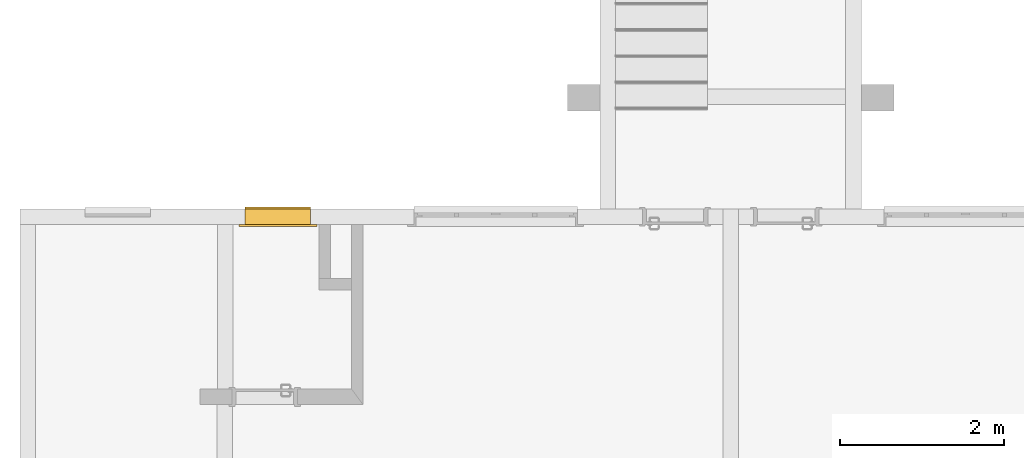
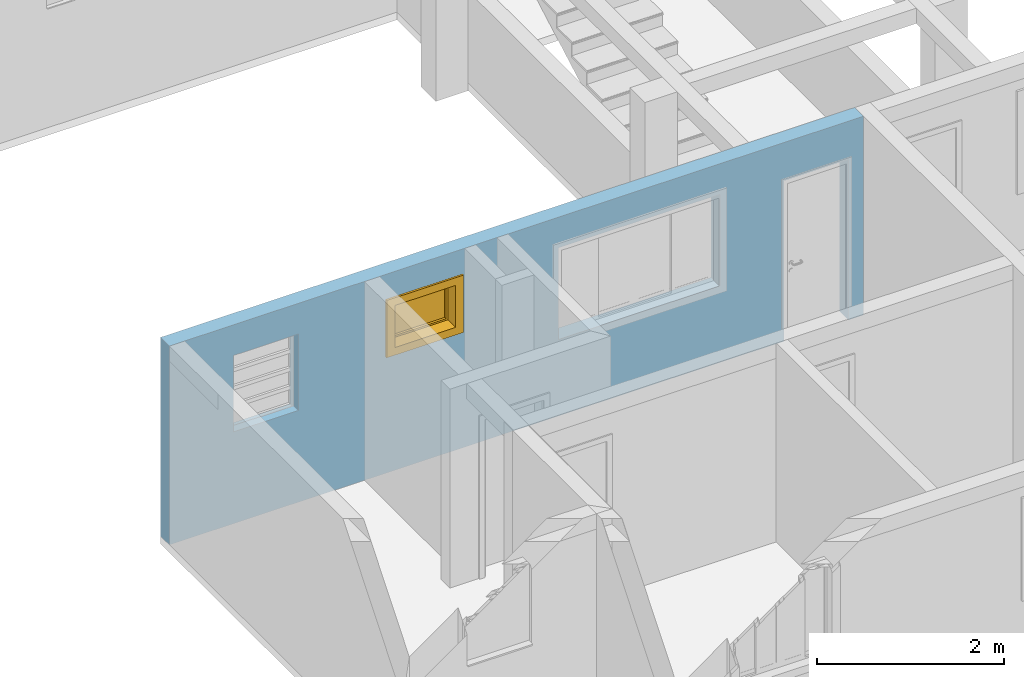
# One storey, part 10 of 43: 1 window, 4 openings, plus 1 element that does not belong to this part.
"""IFC2X3 building model written with IfcOpenShell, lengths in millimetres."""

import ifcopenshell
import ifcopenshell.guid

model = None  # the IFC model being written
_history = None  # IfcOwnerHistory: only IFC2X3 demands one
_inside = {}  # id of a spatial element -> (the spatial element, [elements in it])
_under = {}  # id of a project, library or spatial element -> (it, [spatial elements below it])
_declared = {}  # id of a project -> (the project, [libraries it declares])
_typed = {}  # id of a type object -> (the type object, [elements of that type])
_made_of = {}  # id of a material, layer set ... -> (it, [elements and type objects made of it])


def new_model(schema):
    """Start an empty IFC model of exactly this schema.

    Asked for "IFC4X3", IfcOpenShell would pick the latest addendum, in which some entities
    have other attributes; the version numbers below select the first issue.
    IFC2X3 requires an IfcOwnerHistory on every rooted entity: one is made here for all.
    """
    global model, _history
    if schema == "IFC4X3":
        model = ifcopenshell.file(schema_version=(4, 3, 0, 0))
    else:
        model = ifcopenshell.file(schema=schema)
    _inside.clear()
    _under.clear()
    _declared.clear()
    _typed.clear()
    _made_of.clear()
    _history = None
    if model.schema == "IFC2X3":
        org = make("IfcOrganization", Name="unknown")
        user = make(
            "IfcPersonAndOrganization",
            ThePerson=make("IfcPerson", FamilyName="unknown"),
            TheOrganization=org,
        )
        app = make(
            "IfcApplication",
            ApplicationDeveloper=org,
            Version="unknown",
            ApplicationFullName="unknown",
            ApplicationIdentifier="unknown",
        )
        _history = make(
            "IfcOwnerHistory",
            OwningUser=user,
            OwningApplication=app,
            ChangeAction="ADDED",
            CreationDate=0,
        )
    return model


def make(cls, **values):
    """One entity of the class cls with the attributes given. An attribute that is None is left unset."""
    return model.create_entity(
        cls, **{name: value for name, value in values.items() if value is not None}
    )


def entity(cls, *values):
    """Any entity or typed value of the class cls, its attributes in the order of the schema. None: left unset."""
    e = model.create_entity(cls)
    for i, value in enumerate(values):
        if value is not None:
            e[i] = value
    return e


def rooted(cls, **values):
    """An entity with a GlobalId (a new one), such as an element, a storey or a relation."""
    return make(cls, GlobalId=ifcopenshell.guid.new(), OwnerHistory=_history, **values)


def si_unit(unit_type, name, prefix=None):
    """IfcSIUnit, for example si_unit("LENGTHUNIT", "METRE", prefix="MILLI")."""
    return make("IfcSIUnit", UnitType=unit_type, Prefix=prefix, Name=name)


def converted_unit(unit_type, name, factor, base, dimensions=None, offset=None):
    """IfcConversionBasedUnit, such as the inch: factor (a typed value) times the base unit."""
    return make(
        "IfcConversionBasedUnit"
        if offset is None
        else "IfcConversionBasedUnitWithOffset",
        ConversionOffset=offset,
        Dimensions=None
        if dimensions is None
        else entity("IfcDimensionalExponents", *dimensions),
        UnitType=unit_type,
        Name=name,
        ConversionFactor=make(
            "IfcMeasureWithUnit", ValueComponent=factor, UnitComponent=base
        ),
    )


def derived_unit(unit_type, elements):
    """IfcDerivedUnit: a product of units, each with its exponent."""
    return make(
        "IfcDerivedUnit",
        Elements=[
            make("IfcDerivedUnitElement", Unit=unit, Exponent=power)
            for unit, power in elements
        ],
        UnitType=unit_type,
    )


def money_unit(currency):
    """IfcMonetaryUnit."""
    return make("IfcMonetaryUnit", Currency=currency)


def assignment(units):
    """IfcUnitAssignment: the units of a project."""
    return None if units is None else make("IfcUnitAssignment", Units=units)


def point(xyz):
    """IfcCartesianPoint."""
    return None if xyz is None else make("IfcCartesianPoint", Coordinates=xyz)


def direction(xyz):
    """IfcDirection."""
    return None if xyz is None else make("IfcDirection", DirectionRatios=xyz)


def frame(location, z_axis=None, x_axis=None):
    """IfcAxis2Placement3D, a coordinate frame: its origin and axes. An axis left out is left unset."""
    return make(
        "IfcAxis2Placement3D",
        Location=point(location),
        Axis=direction(z_axis),
        RefDirection=direction(x_axis),
    )


def frame_2d(location, x_axis=None):
    """IfcAxis2Placement2D, a coordinate frame in the plane: its origin and x axis."""
    return make(
        "IfcAxis2Placement2D", Location=point(location), RefDirection=direction(x_axis)
    )


def origin_with_axes():
    """The frame at (0, 0, 0) with the z axis (0, 0, 1) and the x axis (1, 0, 0) written out."""
    return frame((0.0, 0.0, 0.0), z_axis=(0.0, 0.0, 1.0), x_axis=(1.0, 0.0, 0.0))


def origin_2d_with_axis():
    """The frame at (0, 0) in the plane with the x axis (1, 0) written out."""
    return frame_2d((0.0, 0.0), x_axis=(1.0, 0.0))


def place(relative_to, where):
    """IfcLocalPlacement: puts the frame where relative to a parent placement (None: the world)."""
    return make(
        "IfcLocalPlacement", PlacementRelTo=relative_to, RelativePlacement=where
    )


def context(
    kind, dimensions, precision=None, world=None, true_north=None, identifier=None
):
    """IfcGeometricRepresentationContext, for example the 3D "Model" context."""
    return make(
        "IfcGeometricRepresentationContext",
        ContextIdentifier=identifier,
        ContextType=kind,
        CoordinateSpaceDimension=dimensions,
        Precision=precision,
        WorldCoordinateSystem=world,
        TrueNorth=true_north,
    )


def subcontext(parent, identifier, kind, view, scale=None):
    """IfcGeometricRepresentationSubContext, for example "Body" below "Model"."""
    return make(
        "IfcGeometricRepresentationSubContext",
        ContextIdentifier=identifier,
        ContextType=kind,
        ParentContext=parent,
        TargetScale=scale,
        TargetView=view,
    )


def project(units=None, contexts=None):
    """IfcProject with its units and contexts."""
    return rooted(
        "IfcProject",
        Name="project",
        RepresentationContexts=contexts,
        UnitsInContext=assignment(units),
    )


def spatial(cls, under=None, at=None, **own):
    """A site, building, storey or space (cls), placed at a placement, below another one or the project."""
    s = rooted(cls, ObjectPlacement=at, **own)
    if under is not None:
        _under.setdefault(under.id(), (under, []))[1].append(s)
    return s


def polyline(points):
    """IfcPolyline through the points."""
    return make("IfcPolyline", Points=[point(p) for p in points])


def profile(cls, at=None, kind="AREA", **sizes):
    """A parametric profile (cls). Its sizes go by their IFC names, for example OverallWidth=200.0."""
    return make(cls, ProfileType=kind, Position=at, **sizes)


def rectangle(**sizes):
    """IfcRectangleProfileDef."""
    return profile("IfcRectangleProfileDef", **sizes)


def outline(outer, holes=None, kind="AREA"):
    """IfcArbitraryClosedProfileDef: a profile drawn as a closed curve; with holes, ...WithVoids."""
    if holes is None:
        return make("IfcArbitraryClosedProfileDef", ProfileType=kind, OuterCurve=outer)
    return make(
        "IfcArbitraryProfileDefWithVoids",
        ProfileType=kind,
        OuterCurve=outer,
        InnerCurves=holes,
    )


def extrude(swept, where, along, depth):
    """IfcExtrudedAreaSolid: the profile swept, set in the frame where, extruded along a direction by depth."""
    return make(
        "IfcExtrudedAreaSolid",
        SweptArea=swept,
        Position=where,
        ExtrudedDirection=direction(along),
        Depth=depth,
    )


def faces_of(points, faces, orient=None, outer=None):
    """IfcFace entities. A face is a list of loops; a loop is a list of indices into points, from 0.

    orient and outer hold one flag for each loop. By default every Orientation is true, the
    first loop of a face is its IfcFaceOuterBound and the others are IfcFaceBound.
    """
    made = []
    for i, loops in enumerate(faces):
        bounds = []
        for j, loop in enumerate(loops):
            is_outer = j == 0 if outer is None else outer[i][j]
            bounds.append(
                make(
                    "IfcFaceOuterBound" if is_outer else "IfcFaceBound",
                    Bound=make("IfcPolyLoop", Polygon=[points[k] for k in loop]),
                    Orientation=True if orient is None else orient[i][j],
                )
            )
        made.append(make("IfcFace", Bounds=bounds))
    return made


def open_shell(faces, orient=None, outer=None):
    """The faces of one IfcOpenShell. surface_model builds it on its shared points."""
    return ("IfcOpenShell", faces, orient, outer)


def faceted_brep(points, faces, orient=None, outer=None, voids=None):
    """IfcFacetedBrep: a solid bounded by flat faces; with voids (closed shells), ...WithVoids."""
    shared = [point(p) for p in points]
    hull = make("IfcClosedShell", CfsFaces=faces_of(shared, faces, orient, outer))
    if voids is None:
        return make("IfcFacetedBrep", Outer=hull)
    return make(
        "IfcFacetedBrepWithVoids",
        Outer=hull,
        Voids=[
            make(cls, CfsFaces=faces_of(shared, fs, o, b)) for cls, fs, o, b in voids
        ],
    )


def surface_model(cls, points, shells):
    """IfcFaceBasedSurfaceModel or IfcShellBasedSurfaceModel (cls): surfaces that need not close."""
    shared = [point(p) for p in points]
    made = [make(c, CfsFaces=faces_of(shared, fs, o, b)) for c, fs, o, b in shells]
    if cls == "IfcFaceBasedSurfaceModel":
        return make(cls, FbsmFaces=made)
    return make(cls, SbsmBoundary=made)


def shape(context_of_items, identifier, shape_type, items):
    """IfcShapeRepresentation: the items that make up one representation, for example the "Body"."""
    return make(
        "IfcShapeRepresentation",
        ContextOfItems=context_of_items,
        RepresentationIdentifier=identifier,
        RepresentationType=shape_type,
        Items=items,
    )


def source(mapping_origin, context_of_items, identifier, shape_type, items):
    """IfcRepresentationMap: a shape defined once, which mapped items show again and again."""
    return make(
        "IfcRepresentationMap",
        MappingOrigin=mapping_origin,
        MappedRepresentation=shape(context_of_items, identifier, shape_type, items),
    )


def transform(
    local_origin,
    x_axis=None,
    y_axis=None,
    z_axis=None,
    scale=None,
    scale2=None,
    scale3=None,
    uniform=True,
):
    """IfcCartesianTransformationOperator3D, or its non-uniform kind. x_axis, y_axis, z_axis: its Axis1, 2, 3."""
    if uniform:
        return make(
            "IfcCartesianTransformationOperator3D",
            Axis1=direction(x_axis),
            Axis2=direction(y_axis),
            LocalOrigin=point(local_origin),
            Scale=scale,
            Axis3=direction(z_axis),
        )
    return make(
        "IfcCartesianTransformationOperator3DnonUniform",
        Axis1=direction(x_axis),
        Axis2=direction(y_axis),
        LocalOrigin=point(local_origin),
        Scale=scale,
        Axis3=direction(z_axis),
        Scale2=scale2,
        Scale3=scale3,
    )


def mapped(mapping_source, mapping_target):
    """IfcMappedItem: shows the shape of a source again, moved by a transform."""
    return make(
        "IfcMappedItem", MappingSource=mapping_source, MappingTarget=mapping_target
    )


def material(Name=None, Category=None):
    """IfcMaterial."""
    return make("IfcMaterial", Name=Name, Category=Category)


def layer(
    of_material, thickness, ventilated=None, Name=None, Category=None, Priority=None
):
    """IfcMaterialLayer: one layer of a wall or slab, of a material (None: an air gap)."""
    return make(
        "IfcMaterialLayer",
        Material=of_material,
        LayerThickness=thickness,
        IsVentilated=ventilated,
        Name=Name,
        Category=Category,
        Priority=Priority,
    )


def layer_set(layers, Name=None):
    """IfcMaterialLayerSet."""
    return make("IfcMaterialLayerSet", MaterialLayers=layers, LayerSetName=Name)


def layer_usage(for_layer_set, set_direction, sense, offset, extent=None):
    """IfcMaterialLayerSetUsage: how a layer set lies in its element."""
    return make(
        "IfcMaterialLayerSetUsage",
        ForLayerSet=for_layer_set,
        LayerSetDirection=set_direction,
        DirectionSense=sense,
        OffsetFromReferenceLine=offset,
        ReferenceExtent=extent,
    )


def made_of(thing, what):
    """Note that an element or type object is made of a material, layer set ...; save() writes the relation."""
    if what is not None:
        _made_of.setdefault(what.id(), (what, []))[1].append(thing)
    return thing


def type_object(cls, material=None, **own):
    """A type object (cls), such as IfcWallType, which elements share."""
    return made_of(rooted(cls, **own), material)


def element(
    cls,
    number,
    at=None,
    inside=None,
    cuts=None,
    type_object=None,
    material=None,
    context=None,
    identifier="Body",
    shape_type=None,
    held_by="IfcProductDefinitionShape",
    body=None,
    shapes=None,
    **own,
):
    """One element of the class cls, such as IfcWall. Its Tag is "e" and its number.

    at: its placement. inside: the storey or other place that contains it. cuts: it is an
    opening in that element (IfcRelVoidsElement). A single representation is given by context,
    identifier, shape_type and body (its items); several are given by shapes. held_by: the class
    of the entity that holds the representations. save() writes the other relations.
    """
    e = rooted(cls, Tag="e%d" % number, ObjectPlacement=at, **own)
    if body is not None:
        shapes = [shape(context, identifier, shape_type, body)]
    if shapes is not None:
        e.Representation = make(held_by, Representations=shapes)
    if inside is not None:
        _inside.setdefault(inside.id(), (inside, []))[1].append(e)
    if cuts is not None:
        rooted(
            "IfcRelVoidsElement", RelatingBuildingElement=cuts, RelatedOpeningElement=e
        )
    if type_object is not None:
        _typed.setdefault(type_object.id(), (type_object, []))[1].append(e)
    return made_of(e, material)


def fill(opening, filler):
    """IfcRelFillsElement: the door or window that sits in an opening."""
    return rooted(
        "IfcRelFillsElement",
        RelatingOpeningElement=opening,
        RelatedBuildingElement=filler,
    )


def aggregate(whole, parts):
    """IfcRelAggregates: a whole, such as a stair, and the parts it consists of."""
    return rooted("IfcRelAggregates", RelatingObject=whole, RelatedObjects=parts)


def save(model, path):
    """Write the relations noted so far, then the file.

    IfcRelAggregates (storeys below a building ...), IfcRelContainedInSpatialStructure (elements
    in a storey), IfcRelDefinesByType, IfcRelAssociatesMaterial and IfcRelDeclares: one each for
    every whole, place, type object, material and project.
    """
    for whole, parts in _under.values():
        aggregate(whole, parts)
    for where, things in _inside.values():
        rooted(
            "IfcRelContainedInSpatialStructure",
            RelatedElements=things,
            RelatingStructure=where,
        )
    for kind, things in _typed.values():
        rooted("IfcRelDefinesByType", RelatedObjects=things, RelatingType=kind)
    for what, things in _made_of.values():
        rooted("IfcRelAssociatesMaterial", RelatedObjects=things, RelatingMaterial=what)
    for by, libraries in _declared.values():
        rooted("IfcRelDeclares", RelatingContext=by, RelatedDefinitions=libraries)
    model.write(path)


model = new_model("IFC2X3")

# Units and contexts
model_context = context("Model", 3, precision=0.01, world=origin_with_axes(), true_north=direction((0.0, 1.0)))
body_context = subcontext(model_context, "Body", "Model", "MODEL_VIEW")
ifc_project = project(units=[si_unit("LENGTHUNIT", "METRE", prefix="MILLI"), si_unit("AREAUNIT", "SQUARE_METRE"), si_unit("VOLUMEUNIT", "CUBIC_METRE"), converted_unit("PLANEANGLEUNIT", "DEGREE", entity("IfcPlaneAngleMeasure", 0.0174532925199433), si_unit("PLANEANGLEUNIT", "RADIAN"), dimensions=[0, 0, 0, 0, 0, 0, 0]), money_unit("USD"), converted_unit("TIMEUNIT", "Year", entity("IfcTimeMeasure", 31557600.0), si_unit("TIMEUNIT", "SECOND"), dimensions=[0, 0, 1, 0, 0, 0, 0]), si_unit("MASSUNIT", "GRAM", prefix="KILO"), si_unit("THERMODYNAMICTEMPERATUREUNIT", "DEGREE_CELSIUS"), si_unit("LUMINOUSINTENSITYUNIT", "LUMEN"), si_unit("ENERGYUNIT", "JOULE", prefix="MEGA"), derived_unit("THERMALCONDUCTANCEUNIT", [(si_unit("POWERUNIT", "WATT"), 1), (si_unit("LENGTHUNIT", "METRE"), -1), (si_unit("THERMODYNAMICTEMPERATUREUNIT", "KELVIN"), -1)]), derived_unit("SPECIFICHEATCAPACITYUNIT", [(si_unit("ENERGYUNIT", "JOULE"), 1), (si_unit("MASSUNIT", "GRAM", prefix="KILO"), -1), (si_unit("THERMODYNAMICTEMPERATUREUNIT", "KELVIN"), -1)]), derived_unit("MASSDENSITYUNIT", [(si_unit("MASSUNIT", "GRAM", prefix="KILO"), 1), (si_unit("VOLUMEUNIT", "CUBIC_METRE"), -1)])], contexts=[model_context])

# Site, building, storey
site_placement = place(None, origin_with_axes())
site = spatial("IfcSite", under=ifc_project, at=site_placement, Name="Local", CompositionType="ELEMENT")
building_placement = place(site_placement, origin_with_axes())
building = spatial("IfcBuilding", under=site, at=building_placement, Name="Construção", CompositionType="ELEMENT")
storey_placement = place(building_placement, origin_with_axes())
storey = spatial("IfcBuildingStorey", under=building, at=storey_placement, Name="Pavimento Tipo", CompositionType="ELEMENT", Elevation=0.0)

# Wall, openings, window
ifc_material = material(Name="Concreto - Estrutural")
ifc_layer = layer(ifc_material, 190.0, ventilated="UNKNOWN")
ifc_layer_set = layer_set([ifc_layer], Name="Concreto - Estrutural 190")
ifc_layer_usage = layer_usage(ifc_layer_set, "AXIS2", "POSITIVE", 0.0)
wall_type = type_object("IfcWallType", Name="Concreto - Estrutural 190", PredefinedType="NOTDEFINED")
wall_placement = place(storey_placement, frame((55117.434598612, -1757.538479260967, 0.0), z_axis=(0.0, 0.0, 1.0), x_axis=(1.0, 0.0, 0.0)))
wall = element("IfcWallStandardCase", 1, at=wall_placement, inside=storey, type_object=wall_type, material=ifc_layer_usage, Name="Apartamento 3 - Parede-001", context=body_context, shape_type="SweptSolid", body=[
    extrude(outline(polyline([(0.0, 0.0), (8584.765133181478, 0.0), (8584.765133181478, 189.9999999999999), (0.0, 189.9999999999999), (0.0, 0.0)])), origin_with_axes(), (0.0, 0.0, 1.0), 2600.0),
])
opening_1_placement = place(wall_placement, frame((1195.000000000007, 0.0, 1200.0), z_axis=(0.0, 0.0, 1.0), x_axis=(1.0, 0.0, 0.0)))
element("IfcOpeningElement", 2, at=opening_1_placement, cuts=wall, Name="Apartamento 3 - J03", context=body_context, shape_type="SweptSolid", body=[
    extrude(rectangle(XDim=799.9999999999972, YDim=1000.0, at=origin_2d_with_axis()), frame((0.0, 140.0000000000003, 500.0), z_axis=(0.0, -1.0, 0.0), x_axis=(-1.0, 0.0, 0.0)), (0.0, 0.0, 1.0), 330.0),
    extrude(rectangle(XDim=799.9999999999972, YDim=1000.0, at=origin_2d_with_axis()), frame((0.0, 140.0000000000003, 500.0), z_axis=(0.0, 1.0, 0.0), x_axis=(-1.0, 0.0, 0.0)), (0.0, 0.0, 1.0), 240.0),
    extrude(rectangle(XDim=799.9999999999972, YDim=30.00000000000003, at=origin_2d_with_axis()), frame((0.0, 105.0000000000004, -14.9999999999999), z_axis=(0.0, 1.0, 0.0), x_axis=(-1.0, 0.0, 0.0)), (0.0, 0.0, 1.0), 225.0),
])
opening_2_placement = place(wall_placement, frame((3149.999999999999, 0.0, 1600.0), z_axis=(0.0, 0.0, 1.0), x_axis=(1.0, 0.0, 0.0)))
opening_2 = element("IfcOpeningElement", 3, at=opening_2_placement, cuts=wall, Name="Apartamento 3 - J02", context=body_context, shape_type="SweptSolid", body=[
    extrude(rectangle(XDim=799.9999999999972, YDim=600.0000000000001, at=origin_2d_with_axis()), frame((0.0, -189.9999999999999, 300.0000000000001), z_axis=(0.0, -1.0, 0.0), x_axis=(-1.0, 0.0, 0.0)), (0.0, 0.0, -1.0), 570.0000000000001),
    extrude(rectangle(XDim=799.9999999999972, YDim=30.00000000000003, at=origin_2d_with_axis()), frame((0.0, 155.0000000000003, -14.9999999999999), z_axis=(0.0, 1.0, 0.0), x_axis=(-1.0, 0.0, 0.0)), (0.0, 0.0, 1.0), 225.0),
    extrude(rectangle(XDim=950.0000000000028, YDim=750.0000000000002, at=origin_2d_with_axis()), frame((0.0, 0.0, 300.0000000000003), z_axis=(0.0, -1.0, 0.0), x_axis=(-1.0, 0.0, 0.0)), (0.0, 0.0, 1.0), 190.0),
])
opening_3_placement = place(wall_placement, frame((8000.000000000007, 0.0, 0.0), z_axis=(0.0, 0.0, 1.0), x_axis=(1.0, 0.0, 0.0)))
element("IfcOpeningElement", 4, at=opening_3_placement, cuts=wall, Name="Apartamento 3 - P01", context=body_context, shape_type="SweptSolid", body=[
    extrude(rectangle(XDim=799.9999999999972, YDim=2100.0, at=origin_2d_with_axis()), frame((0.0, -189.9999999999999, 1050.0), z_axis=(0.0, -1.0, 0.0), x_axis=(1.0, 0.0, 0.0)), (0.0, 0.0, -1.0), 570.0000000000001),
    extrude(rectangle(XDim=870.0000000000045, YDim=2135.0, at=origin_2d_with_axis()), frame((0.0, 0.0, 1067.5), z_axis=(0.0, -1.0, 0.0), x_axis=(1.0, 0.0, 0.0)), (0.0, 0.0, 1.0), 190.0),
    extrude(rectangle(XDim=870.0000000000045, YDim=2135.0, at=origin_2d_with_axis()), frame((0.0, 190.0000000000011, 1067.5), z_axis=(0.0, 1.0, 0.0), x_axis=(1.0, 0.0, 0.0)), (0.0, 0.0, 1.0), 190.0),
])
opening_4_placement = place(wall_placement, frame((5810.000000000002, 0.0, 1000.0), z_axis=(0.0, 0.0, 1.0), x_axis=(1.0, 0.0, 0.0)))
element("IfcOpeningElement", 5, at=opening_4_placement, cuts=wall, Name="Apartamento 3 - J01", context=body_context, shape_type="SweptSolid", body=[
    extrude(rectangle(XDim=2000.0, YDim=1200.0, at=origin_2d_with_axis()), frame((0.0, 140.0000000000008, 600.0000000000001), z_axis=(0.0, 1.0, 0.0), x_axis=(1.0, 0.0, 0.0)), (0.0, 0.0, -1.0), 330.0),
    extrude(rectangle(XDim=2000.0, YDim=1200.0, at=origin_2d_with_axis()), frame((0.0, 140.0000000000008, 600.0000000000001), z_axis=(0.0, -1.0, 0.0), x_axis=(1.0, 0.0, 0.0)), (0.0, 0.0, -1.0), 240.0),
    extrude(rectangle(XDim=2150.000000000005, YDim=1350.0, at=origin_2d_with_axis()), frame((0.0, 0.0, 600.0000000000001), z_axis=(0.0, 1.0, 0.0), x_axis=(1.0, 0.0, 0.0)), (0.0, 0.0, -1.0), 240.0),
])
window_style = type_object("IfcWindowStyle", Name="Janela 27", ConstructionType="NOTDEFINED", OperationType="SINGLE_PANEL", ParameterTakesPrecedence=False, Sizeable=False)
shared_shape = source(origin_with_axes(), body_context, "Body", "SurfaceModel", [
    faceted_brep([(400.0, -34.99999999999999, 0.0), (400.0, -24.99999999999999, 0.0), (-400.0, -24.99999999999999, 0.0), (-400.0, -34.99999999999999, 0.0), (400.0, -34.99999999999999, -30.0), (400.0, 25.0, -30.0), (400.0, 25.0, -17.02704173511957), (400.0, -24.99999999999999, -10.0), (-400.0, -24.99999999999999, -9.999999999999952), (-400.0, 25.0, -17.02704173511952), (-400.0, 25.0, -29.99999999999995), (-400.0, -34.99999999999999, -29.99999999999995)], [[[0, 1, 2, 3]], [[0, 4, 5, 6, 7, 1]], [[1, 7, 8, 2]], [[3, 2, 8, 9, 10, 11]], [[4, 0, 3, 11]], [[5, 4, 11, 10]], [[6, 5, 10, 9]], [[7, 6, 9, 8]]]),
    faceted_brep([(400.0, -49.99999999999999, 0.0), (400.0, -190.0, 0.0), (-400.0, -190.0, 0.0), (-400.0, -49.99999999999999, 0.0), (400.0, -50.00000000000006, 600.0), (400.0, -190.0000000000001, 600.0), (-400.0, -190.0000000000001, 600.0), (375.0, -190.0, 24.99999999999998), (-375.0, -190.0, 24.99999999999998), (-375.0, -190.0000000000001, 575.0), (375.0, -190.0000000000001, 575.0), (-400.0, -50.00000000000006, 600.0), (375.0, -49.99999999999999, 24.99999999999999), (375.0, -50.00000000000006, 575.0), (-375.0, -50.00000000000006, 575.0), (-375.0, -49.99999999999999, 24.99999999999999)], [[[0, 1, 2, 3]], [[4, 5, 1, 0]], [[1, 5, 6, 2], [7, 8, 9, 10]], [[3, 2, 6, 11]], [[0, 3, 11, 4], [12, 13, 14, 15]], [[11, 6, 5, 4]], [[15, 8, 7, 12]], [[14, 9, 8, 15]], [[13, 10, 9, 14]], [[12, 7, 10, 13]]]),
    faceted_brep([(475.0, -215.0, -75.00000000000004), (375.0, -215.0, 24.99999999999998), (375.0, -190.0, 24.99999999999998), (475.0, -190.0, -75.00000000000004), (475.0, -215.0000000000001, 675.0), (375.0, -215.0000000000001, 575.0), (375.0, -190.0000000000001, 575.0), (475.0, -190.0000000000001, 675.0)], [[[0, 1, 2, 3]], [[0, 4, 5, 1]], [[1, 5, 6, 2]], [[3, 2, 6, 7]], [[4, 0, 3, 7]], [[5, 4, 7, 6]]]),
    faceted_brep([(-475.0, -215.0000000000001, 675.0), (-375.0, -215.0000000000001, 575.0), (-375.0, -190.0000000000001, 575.0), (-475.0, -190.0000000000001, 675.0), (-475.0, -215.0, -75.00000000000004), (-375.0, -215.0, 24.99999999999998), (-375.0, -190.0, 24.99999999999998), (-475.0, -190.0, -75.00000000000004)], [[[0, 1, 2, 3]], [[0, 4, 5, 1]], [[1, 5, 6, 2]], [[3, 2, 6, 7]], [[4, 0, 3, 7]], [[5, 4, 7, 6]]]),
    faceted_brep([(-475.0, -215.0, -75.00000000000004), (-375.0, -215.0, 24.99999999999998), (-375.0, -190.0, 24.99999999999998), (-475.0, -190.0, -75.00000000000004), (475.0, -215.0, -75.00000000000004), (375.0, -215.0, 24.99999999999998), (375.0, -190.0, 24.99999999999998), (475.0, -190.0, -75.00000000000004)], [[[0, 1, 2, 3]], [[0, 4, 5, 1]], [[1, 5, 6, 2]], [[3, 2, 6, 7]], [[4, 0, 3, 7]], [[5, 4, 7, 6]]]),
    faceted_brep([(475.0, -215.0000000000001, 674.9999999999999), (375.0, -215.0000000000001, 575.0), (375.0, -190.0000000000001, 575.0), (475.0, -190.0000000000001, 674.9999999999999), (-475.0, -215.0000000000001, 674.9999999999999), (-375.0, -215.0000000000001, 575.0), (-375.0, -190.0000000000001, 575.0), (-475.0, -190.0000000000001, 674.9999999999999)], [[[0, 1, 2, 3]], [[0, 4, 5, 1]], [[1, 5, 6, 2]], [[3, 2, 6, 7]], [[4, 0, 3, 7]], [[5, 4, 7, 6]]]),
    faceted_brep([(373.0000000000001, 0.0, 552.9999999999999), (373.0000000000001, -20.00000000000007, 552.9999999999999), (353.0000000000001, -20.00000000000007, 552.9999999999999), (353.0000000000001, -50.00000000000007, 552.9999999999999), (400.0, -50.00000000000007, 552.9999999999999), (400.0, 0.0, 552.9999999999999), (373.0000000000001, 0.0, 46.99999999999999), (373.0000000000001, -20.00000000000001, 47.00000000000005), (353.0000000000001, -20.00000000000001, 46.99999999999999), (353.0000000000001, -50.00000000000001, 46.99999999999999), (400.0, -50.00000000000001, 46.99999999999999), (400.0, 0.0, 46.99999999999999)], [[[0, 1, 2, 3, 4, 5]], [[1, 0, 6, 7]], [[8, 2, 1, 7]], [[2, 8, 9, 3]], [[4, 3, 9, 10]], [[5, 4, 10, 11]], [[6, 0, 5, 11]], [[7, 6, 11, 10, 9, 8]]]),
    faceted_brep([(-353.0000000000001, -20.00000000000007, 552.9999999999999), (-373.0000000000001, -20.00000000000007, 552.9999999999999), (-373.0000000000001, 0.0, 552.9999999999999), (-400.0, 0.0, 552.9999999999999), (-400.0, -50.00000000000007, 552.9999999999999), (-353.0000000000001, -50.00000000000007, 552.9999999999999), (-353.0000000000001, -20.00000000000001, 46.99999999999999), (-373.0000000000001, -20.00000000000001, 46.99999999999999), (-373.0000000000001, 0.0, 46.99999999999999), (-400.0, 0.0, 46.99999999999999), (-400.0, -50.00000000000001, 46.99999999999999), (-353.0000000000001, -50.00000000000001, 46.99999999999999)], [[[0, 1, 2, 3, 4, 5]], [[1, 0, 6, 7]], [[8, 2, 1, 7]], [[2, 8, 9, 3]], [[9, 10, 4, 3]], [[10, 11, 5, 4]], [[6, 0, 5, 11]], [[7, 6, 11, 10, 9, 8]]]),
    faceted_brep([(-353.0000000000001, -20.00000000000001, 46.99999999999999), (-373.0000000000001, -20.00000000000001, 46.99999999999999), (-373.0000000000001, 0.0, 46.99999999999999), (-400.0, 0.0, 46.99999999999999), (-400.0, -50.00000000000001, 46.99999999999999), (-353.0000000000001, -50.00000000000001, 46.99999999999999), (353.0000000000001, -20.00000000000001, 46.99999999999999), (373.0000000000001, -20.00000000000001, 47.00000000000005), (373.0000000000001, -20.0, 27.00000000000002), (-373.0000000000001, -20.0, 27.00000000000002), (-373.0000000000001, 0.0, 27.00000000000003), (373.0000000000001, 0.0, 27.00000000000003), (373.0000000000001, 0.0, 46.99999999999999), (400.0, 0.0, 46.99999999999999), (400.0, 0.0, 0.0), (-400.0, 0.0, 0.0), (-400.0, -50.0, 0.0), (400.0, -50.00000000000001, 46.99999999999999), (353.0000000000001, -50.00000000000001, 46.99999999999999), (400.0, -50.0, 0.0)], [[[0, 1, 2, 3, 4, 5]], [[1, 0, 6, 7, 8, 9]], [[10, 2, 1, 9]], [[11, 12, 13, 14, 15, 3, 2, 10]], [[15, 16, 4, 3]], [[17, 18, 5, 4, 16, 19]], [[6, 0, 5, 18]], [[7, 6, 18, 17, 13, 12]], [[7, 12, 11, 8]], [[11, 10, 9, 8]], [[13, 17, 19, 14]], [[14, 19, 16, 15]]]),
    faceted_brep([(373.0000000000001, 0.0, 552.9999999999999), (373.0000000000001, 0.0, 573.0), (-373.0000000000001, 0.0, 573.0), (-373.0000000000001, 0.0, 552.9999999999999), (-400.0, 0.0, 552.9999999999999), (-400.0, 0.0, 600.0), (400.0, 0.0, 600.0), (400.0, 0.0, 552.9999999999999), (373.0000000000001, -20.00000000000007, 552.9999999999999), (373.0000000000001, -20.00000000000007, 573.0), (-373.0000000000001, -20.00000000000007, 573.0), (-373.0000000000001, -20.00000000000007, 552.9999999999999), (-353.0000000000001, -20.00000000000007, 552.9999999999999), (-353.0000000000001, -50.00000000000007, 552.9999999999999), (-400.0, -50.00000000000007, 552.9999999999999), (-400.0, -50.00000000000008, 600.0), (400.0, -50.00000000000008, 600.0), (400.0, -50.00000000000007, 552.9999999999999), (353.0000000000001, -50.00000000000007, 552.9999999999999), (353.0000000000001, -20.00000000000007, 552.9999999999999)], [[[0, 1, 2, 3, 4, 5, 6, 7]], [[1, 0, 8, 9]], [[2, 1, 9, 10]], [[3, 2, 10, 11]], [[11, 12, 13, 14, 4, 3]], [[4, 14, 15, 5]], [[5, 15, 16, 6]], [[6, 16, 17, 7]], [[8, 0, 7, 17, 18, 19]], [[12, 11, 10, 9, 8, 19]], [[12, 19, 18, 13]], [[14, 13, 18, 17, 16, 15]]]),
    faceted_brep([(323.0000000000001, -20.00000000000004, 522.9999999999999), (373.0000000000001, -20.00000000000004, 522.9999999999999), (373.0000000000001, 0.0, 522.9999999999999), (323.0000000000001, 0.0, 522.9999999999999), (323.0000000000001, -19.99999999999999, 77.00000000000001), (373.0000000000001, -19.99999999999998, 77.00000000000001), (373.0000000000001, 0.0, 77.00000000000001), (323.0000000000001, 0.0, 77.00000000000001)], [[[0, 1, 2, 3]], [[0, 4, 5, 1]], [[1, 5, 6, 2]], [[3, 2, 6, 7]], [[4, 0, 3, 7]], [[5, 4, 7, 6]]]),
    faceted_brep([(-323.0000000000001, -20.00000000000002, 77.00000000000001), (-373.0000000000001, -20.00000000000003, 77.00000000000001), (-373.0000000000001, 0.0, 77.00000000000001), (-323.0000000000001, 0.0, 77.00000000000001), (-323.0000000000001, -20.00000000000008, 522.9999999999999), (-373.0000000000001, -20.00000000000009, 522.9999999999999), (-373.0000000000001, 0.0, 522.9999999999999), (-323.0000000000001, 0.0, 522.9999999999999)], [[[0, 1, 2, 3]], [[0, 4, 5, 1]], [[1, 5, 6, 2]], [[3, 2, 6, 7]], [[4, 0, 3, 7]], [[5, 4, 7, 6]]]),
    faceted_brep([(-373.0000000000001, -20.00000000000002, 27.0), (-373.0000000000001, -20.00000000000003, 77.00000000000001), (-373.0000000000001, 0.0, 77.00000000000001), (-373.0000000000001, 0.0, 27.00000000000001), (373.0000000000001, -19.99999999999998, 27.0), (373.0000000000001, -19.99999999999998, 77.00000000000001), (323.0000000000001, -19.99999999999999, 77.00000000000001), (-323.0000000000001, -20.00000000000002, 77.00000000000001), (-323.0000000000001, 0.0, 77.00000000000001), (323.0000000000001, 0.0, 77.00000000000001), (373.0000000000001, 0.0, 77.00000000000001), (373.0000000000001, 0.0, 27.00000000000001)], [[[0, 1, 2, 3]], [[0, 4, 5, 6, 7, 1]], [[1, 7, 8, 2]], [[3, 2, 8, 9, 10, 11]], [[4, 0, 3, 11]], [[5, 4, 11, 10]], [[6, 5, 10, 9]], [[7, 6, 9, 8]]]),
    faceted_brep([(373.0000000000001, -20.00000000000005, 573.0), (373.0000000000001, -20.00000000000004, 522.9999999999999), (373.0000000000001, 0.0, 522.9999999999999), (373.0000000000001, 0.0, 573.0), (-373.0000000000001, -20.00000000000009, 573.0), (-373.0000000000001, -20.00000000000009, 522.9999999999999), (-323.0000000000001, -20.00000000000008, 522.9999999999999), (323.0000000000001, -20.00000000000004, 522.9999999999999), (323.0000000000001, 0.0, 522.9999999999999), (-323.0000000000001, 0.0, 522.9999999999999), (-373.0000000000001, 0.0, 522.9999999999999), (-373.0000000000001, 0.0, 573.0)], [[[0, 1, 2, 3]], [[0, 4, 5, 6, 7, 1]], [[1, 7, 8, 2]], [[3, 2, 8, 9, 10, 11]], [[4, 0, 3, 11]], [[5, 4, 11, 10]], [[6, 5, 10, 9]], [[7, 6, 9, 8]]]),
    surface_model("IfcShellBasedSurfaceModel", [(323.0000000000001, -20.00000000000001, 77.00000000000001), (323.0000000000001, -20.00000000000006, 522.9999999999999), (-323.0000000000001, -20.00000000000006, 522.9999999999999), (-323.0000000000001, -20.00000000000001, 77.00000000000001)], [open_shell([[[0, 1, 2, 3]]])]),
    surface_model("IfcShellBasedSurfaceModel", [(323.0000000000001, 0.0, 77.00000000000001), (-323.0000000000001, 0.0, 77.00000000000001), (-323.0000000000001, 0.0, 522.9999999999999), (323.0000000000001, 0.0, 522.9999999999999)], [open_shell([[[0, 1, 2, 3]]])]),
])
window_placement = place(opening_2_placement, frame((-399.9999999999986, 0.0, 0.0), z_axis=(0.0, 0.0, 1.0), x_axis=(1.0, 0.0, 0.0)))
window = element("IfcWindow", 6, at=window_placement, inside=storey, type_object=window_style, Name="Apartamento 3 - J02", ObjectType="WINDOW", OverallHeight=600.0, OverallWidth=800.0, context=body_context, shape_type="MappedRepresentation", body=[
    mapped(shared_shape, transform((399.9999999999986, 190.0000000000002, 0.0))),
])
fill(opening_2, window)

save(model, "model.ifc")
